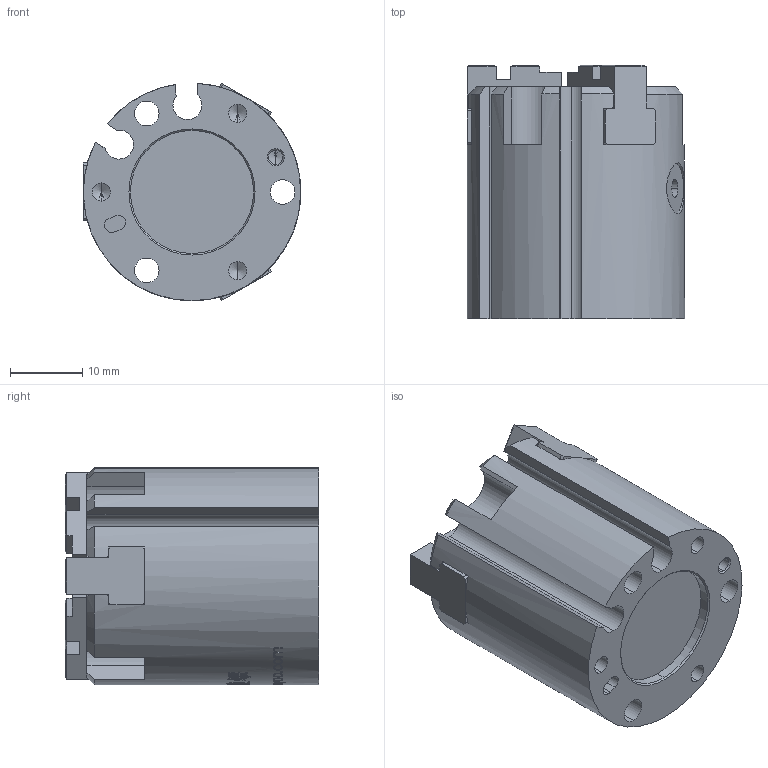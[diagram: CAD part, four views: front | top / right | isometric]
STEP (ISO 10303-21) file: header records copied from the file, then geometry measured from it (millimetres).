
FILE_DESCRIPTION (( 'STEP AP203' ), '1' );
FILE_NAME ('GPS 3-30-原始檔-組合-W106.04.13.STEP', '2017-04-13T06:58:24', ( 'DanyaoCAD' ), ( '' ), 'SwSTEP 2.0', 'SolidWorks 2016', '' );
FILE_SCHEMA (( 'CONFIG_CONTROL_DESIGN' ));
Length unit declared in the file: millimetre
Products named in the file (5): Griffa; Corpo; Piastrina; Spintore; GPS 3-30-原始檔-組合-W106.04.13
Assembly tree (6 placements, depth 2):
  GPS 3-30-原始檔-組合-W106.04.13
    Griffa  x3
    Corpo
    Piastrina
    Spintore
Bounding box: 30 x 35 x 29.99 mm (x, y, z)
Volume: 19857.7 mm3; surface area: 10069 mm2
Topology: 6 solids, 6 shells, 1087 faces, 3012 edges, 1974 vertices
Faces by surface type: bspline 665, plane 261, cylinder 120, cone 41
Entity records: 67216 total; most frequent: CARTESIAN_POINT 46941, ORIENTED_EDGE 5548, EDGE_CURVE 2774, B_SPLINE_CURVE_WITH_KNOTS 2066, VERTEX_POINT 1838, DIRECTION 1611, EDGE_LOOP 1064, ADVANCED_FACE 1001
